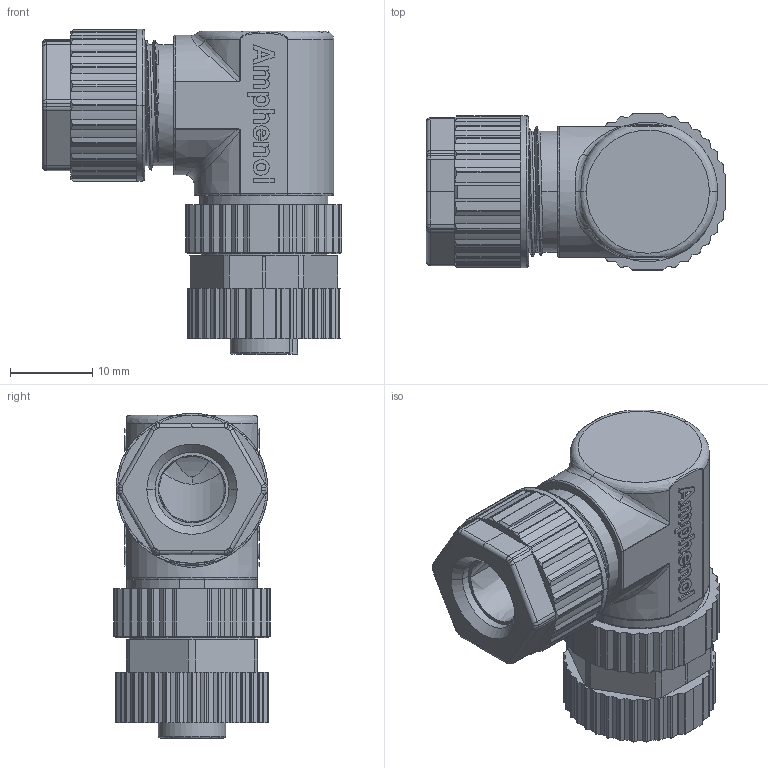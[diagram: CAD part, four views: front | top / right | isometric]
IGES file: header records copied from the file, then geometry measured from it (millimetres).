
Start section:  PTC IGES file: MSBP-05BFFA-SR7001-IGS.igs
Global section: file name: MSBP-05BFFA-SR7001-IGS.igs; native system: Creo Parametric by Parametric Technology Corporation; preprocessor: 2013050; author: K180302; organization: Unknown; date: 20200425.162429; units: millimetre
Bounding box: 36.5 x 19 x 39.66 mm (x, y, z)
Volume: 9974.1 mm3; surface area: 6448 mm2
Topology: 1 solids, 1 shells, 1085 faces, 2872 edges, 1863 vertices
Faces by surface type: bspline 547, revolution 428, extrusion 110
